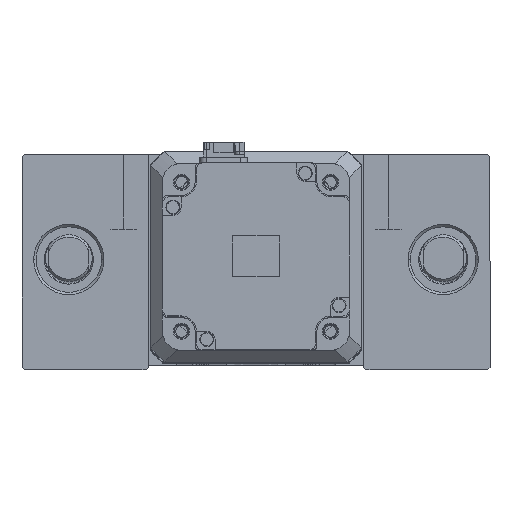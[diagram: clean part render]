
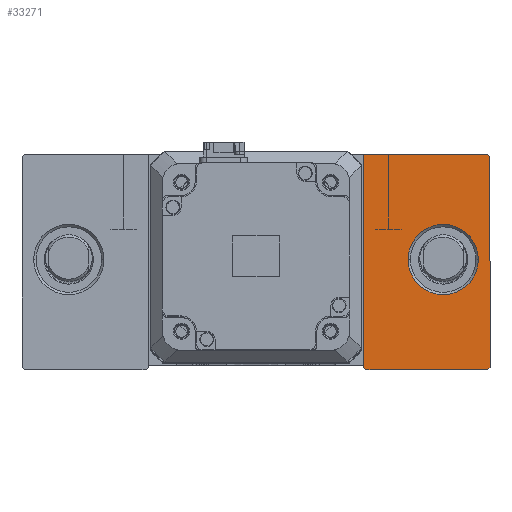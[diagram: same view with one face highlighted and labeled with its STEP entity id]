
A CAD part, top view. The second image highlights one B-rep face of the part: STEP entity #33271.
In plain terms, the highlighted planar face has unit normal (0, 0, 1).
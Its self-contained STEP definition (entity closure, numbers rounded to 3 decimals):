
#907 = EDGE_CURVE ( 'NONE', #39878, #50262, #54746, .T. ) ;
#1665 = DIRECTION ( 'NONE',  ( 1., 0., 0. ) ) ;
#1699 = VERTEX_POINT ( 'NONE', #53377 ) ;
#2410 = VERTEX_POINT ( 'NONE', #53175 ) ;
#2433 = DIRECTION ( 'NONE',  ( 1., 0., 0. ) ) ;
#3167 = LINE ( 'NONE', #52308, #47234 ) ;
#3256 = FACE_OUTER_BOUND ( 'NONE', #33339, .T. ) ;
#3763 = ORIENTED_EDGE ( 'NONE', *, *, #30022, .T. ) ;
#4237 = CARTESIAN_POINT ( 'NONE',  ( 73., -73., 35. ) ) ;
#4422 = DIRECTION ( 'NONE',  ( 0.707, 0.707, 0. ) ) ;
#5538 = EDGE_CURVE ( 'NONE', #2410, #39878, #41193, .T. ) ;
#5788 = CARTESIAN_POINT ( 'NONE',  ( 95., 0., 35. ) ) ;
#6736 = ORIENTED_EDGE ( 'NONE', *, *, #36798, .T. ) ;
#7122 = CARTESIAN_POINT ( 'NONE',  ( 46., -46., 35. ) ) ;
#9022 = EDGE_CURVE ( 'NONE', #20575, #1699, #42882, .T. ) ;
#9364 = VECTOR ( 'NONE', #55316, 1000. ) ;
#14389 = PLANE ( 'NONE',  #24537 ) ;
#14702 = EDGE_CURVE ( 'NONE', #47618, #27415, #3167, .T. ) ;
#14895 = DIRECTION ( 'NONE',  ( 0., 0., -1. ) ) ;
#15388 = CARTESIAN_POINT ( 'NONE',  ( 72., 72., 35. ) ) ;
#16759 = CARTESIAN_POINT ( 'NONE',  ( 0., 0., 35. ) ) ;
#17849 = AXIS2_PLACEMENT_3D ( 'NONE', #53542, #27983, #2433 ) ;
#17977 = ORIENTED_EDGE ( 'NONE', *, *, #39200, .T. ) ;
#19734 = EDGE_CURVE ( 'NONE', #50726, #40474, #38625, .T. ) ;
#20575 = VERTEX_POINT ( 'NONE', #34025 ) ;
#21666 = CIRCLE ( 'NONE', #26120, 15. ) ;
#22026 = VECTOR ( 'NONE', #4422, 1000. ) ;
#24537 = AXIS2_PLACEMENT_3D ( 'NONE', #44031, #27215, #1665 ) ;
#26120 = AXIS2_PLACEMENT_3D ( 'NONE', #40458, #14895, #44720 ) ;
#27215 = DIRECTION ( 'NONE',  ( 0., 0., 1. ) ) ;
#27415 = VERTEX_POINT ( 'NONE', #42465 ) ;
#27983 = DIRECTION ( 'NONE',  ( 0., 0., -1. ) ) ;
#28148 = ORIENTED_EDGE ( 'NONE', *, *, #19734, .T. ) ;
#29717 = DIRECTION ( 'NONE',  ( -1., 0., 0. ) ) ;
#29773 = VECTOR ( 'NONE', #45245, 1000. ) ;
#30022 = EDGE_CURVE ( 'NONE', #40474, #50726, #21666, .T. ) ;
#33271 = ADVANCED_FACE ( 'NONE', ( #47321, #3256 ), #14389, .T. ) ;
#33339 = EDGE_LOOP ( 'NONE', ( #37390, #6736, #37734, #17977, #45514, #34362, #34124 ) ) ;
#34025 = CARTESIAN_POINT ( 'NONE',  ( 47., -47., 35. ) ) ;
#34124 = ORIENTED_EDGE ( 'NONE', *, *, #5538, .T. ) ;
#34199 = LINE ( 'NONE', #16759, #46895 ) ;
#34362 = ORIENTED_EDGE ( 'NONE', *, *, #41996, .T. ) ;
#34685 = LINE ( 'NONE', #4237, #22026 ) ;
#36152 = CARTESIAN_POINT ( 'NONE',  ( 65., 0., 35. ) ) ;
#36798 = EDGE_CURVE ( 'NONE', #50262, #20575, #34199, .T. ) ;
#37390 = ORIENTED_EDGE ( 'NONE', *, *, #907, .T. ) ;
#37734 = ORIENTED_EDGE ( 'NONE', *, *, #9022, .T. ) ;
#38293 = CARTESIAN_POINT ( 'NONE',  ( 46., 45., 35. ) ) ;
#38470 = VECTOR ( 'NONE', #29717, 1000. ) ;
#38625 = CIRCLE ( 'NONE', #17849, 15. ) ;
#39200 = EDGE_CURVE ( 'NONE', #1699, #47618, #34685, .T. ) ;
#39651 = DIRECTION ( 'NONE',  ( 0., 1., 0. ) ) ;
#39878 = VERTEX_POINT ( 'NONE', #48584 ) ;
#40458 = CARTESIAN_POINT ( 'NONE',  ( 80., 0., 35. ) ) ;
#40474 = VERTEX_POINT ( 'NONE', #5788 ) ;
#40500 = CARTESIAN_POINT ( 'NONE',  ( 46., -47., 35. ) ) ;
#41193 = LINE ( 'NONE', #38293, #38470 ) ;
#41996 = EDGE_CURVE ( 'NONE', #27415, #2410, #49810, .T. ) ;
#42336 = DIRECTION ( 'NONE',  ( 0.707, -0.707, 0. ) ) ;
#42465 = CARTESIAN_POINT ( 'NONE',  ( 100., 44., 35. ) ) ;
#42485 = CARTESIAN_POINT ( 'NONE',  ( 46., 45., 35. ) ) ;
#42882 = LINE ( 'NONE', #40500, #54212 ) ;
#44031 = CARTESIAN_POINT ( 'NONE',  ( 0., 0., 35. ) ) ;
#44462 = EDGE_LOOP ( 'NONE', ( #3763, #28148 ) ) ;
#44720 = DIRECTION ( 'NONE',  ( 1., 0., 0. ) ) ;
#44953 = DIRECTION ( 'NONE',  ( 1., 0., 0. ) ) ;
#45245 = DIRECTION ( 'NONE',  ( -0.707, 0.707, 0. ) ) ;
#45514 = ORIENTED_EDGE ( 'NONE', *, *, #14702, .T. ) ;
#46878 = CARTESIAN_POINT ( 'NONE',  ( 100., -46., 35. ) ) ;
#46895 = VECTOR ( 'NONE', #42336, 1000. ) ;
#47234 = VECTOR ( 'NONE', #39651, 1000. ) ;
#47321 = FACE_BOUND ( 'NONE', #44462, .T. ) ;
#47618 = VERTEX_POINT ( 'NONE', #46878 ) ;
#48584 = CARTESIAN_POINT ( 'NONE',  ( 46., 45., 35. ) ) ;
#49810 = LINE ( 'NONE', #15388, #29773 ) ;
#50262 = VERTEX_POINT ( 'NONE', #7122 ) ;
#50726 = VERTEX_POINT ( 'NONE', #36152 ) ;
#52308 = CARTESIAN_POINT ( 'NONE',  ( 100., 45., 35. ) ) ;
#53175 = CARTESIAN_POINT ( 'NONE',  ( 99., 45., 35. ) ) ;
#53377 = CARTESIAN_POINT ( 'NONE',  ( 99., -47., 35. ) ) ;
#53542 = CARTESIAN_POINT ( 'NONE',  ( 80., 0., 35. ) ) ;
#54212 = VECTOR ( 'NONE', #44953, 1000. ) ;
#54746 = LINE ( 'NONE', #42485, #9364 ) ;
#55316 = DIRECTION ( 'NONE',  ( 0., -1., 0. ) ) ;
